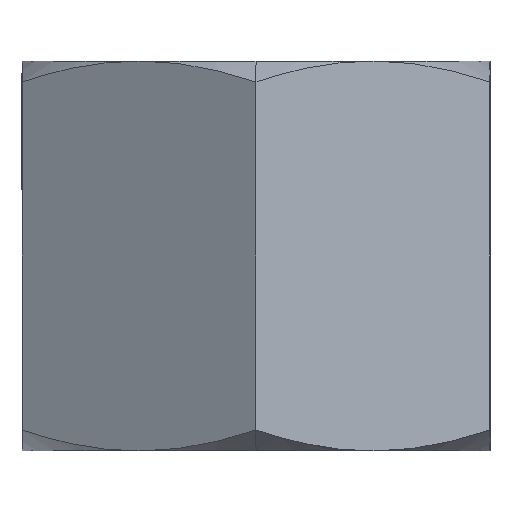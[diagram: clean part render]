
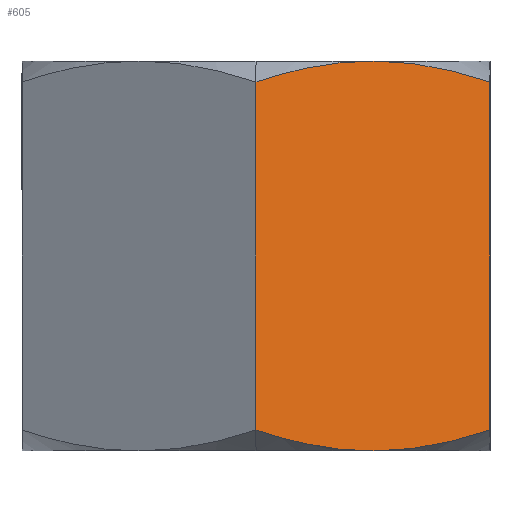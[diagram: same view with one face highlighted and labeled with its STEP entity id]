
A CAD part, left-side view. The second image highlights one B-rep face of the part: STEP entity #605.
In plain terms, the highlighted planar face has unit normal (-0.866, -0.5, 0).
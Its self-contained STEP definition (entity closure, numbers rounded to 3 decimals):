
#8 = B_SPLINE_CURVE_WITH_KNOTS ( 'NONE', 3,
 ( #809, #861, #186, #720, #864, #254 ),
 .UNSPECIFIED., .F., .F.,
 ( 4, 2, 4 ),
 ( 0.002, 0.003, 0.003 ),
 .UNSPECIFIED. ) ;
#36 = VECTOR ( 'NONE', #343, 1000. ) ;
#65 = DIRECTION ( 'NONE',  ( -0.866, -0.5, 0. ) ) ;
#74 = CARTESIAN_POINT ( 'NONE',  ( -3.464, 0., -2.5 ) ) ;
#105 = ORIENTED_EDGE ( 'NONE', *, *, #414, .T. ) ;
#122 = DIRECTION ( 'NONE',  ( 0.5, -0.866, 0. ) ) ;
#123 = CARTESIAN_POINT ( 'NONE',  ( -2.598, -1.5, -2.5 ) ) ;
#133 = CARTESIAN_POINT ( 'NONE',  ( -1.873, -2.755, -2.314 ) ) ;
#134 = LINE ( 'NONE', #74, #36 ) ;
#143 = CARTESIAN_POINT ( 'NONE',  ( -3.464, 0., 2.232 ) ) ;
#175 = CARTESIAN_POINT ( 'NONE',  ( -1.732, -3., -2.232 ) ) ;
#186 = CARTESIAN_POINT ( 'NONE',  ( -2.304, -2.009, 2.474 ) ) ;
#223 = EDGE_CURVE ( 'NONE', #264, #288, #661, .T. ) ;
#241 = VERTEX_POINT ( 'NONE', #175 ) ;
#251 = CARTESIAN_POINT ( 'NONE',  ( -2.304, -2.009, -2.474 ) ) ;
#254 = CARTESIAN_POINT ( 'NONE',  ( -1.732, -3., 2.232 ) ) ;
#257 = VERTEX_POINT ( 'NONE', #783 ) ;
#264 = VERTEX_POINT ( 'NONE', #621 ) ;
#288 = VERTEX_POINT ( 'NONE', #123 ) ;
#302 = CARTESIAN_POINT ( 'NONE',  ( -2.893, -0.989, -2.5 ) ) ;
#308 = CARTESIAN_POINT ( 'NONE',  ( -3.181, -0.491, -2.396 ) ) ;
#311 = CARTESIAN_POINT ( 'NONE',  ( -2.598, -1.5, 2.5 ) ) ;
#315 = FACE_OUTER_BOUND ( 'NONE', #468, .T. ) ;
#318 = B_SPLINE_CURVE_WITH_KNOTS ( 'NONE', 3,
 ( #793, #380, #507, #311 ),
 .UNSPECIFIED., .F., .F.,
 ( 4, 4 ),
 ( 0., 0.002 ),
 .UNSPECIFIED. ) ;
#319 = CARTESIAN_POINT ( 'NONE',  ( -1.732, -3., -2.232 ) ) ;
#332 = ORIENTED_EDGE ( 'NONE', *, *, #515, .F. ) ;
#343 = DIRECTION ( 'NONE',  ( 0., 0., 1. ) ) ;
#359 = ORIENTED_EDGE ( 'NONE', *, *, #223, .T. ) ;
#380 = CARTESIAN_POINT ( 'NONE',  ( -3.181, -0.491, 2.396 ) ) ;
#414 = EDGE_CURVE ( 'NONE', #288, #241, #421, .T. ) ;
#418 = ORIENTED_EDGE ( 'NONE', *, *, #801, .T. ) ;
#421 = B_SPLINE_CURVE_WITH_KNOTS ( 'NONE', 3,
 ( #583, #658, #251, #650, #133, #319 ),
 .UNSPECIFIED., .F., .F.,
 ( 4, 2, 4 ),
 ( 0.002, 0.003, 0.003 ),
 .UNSPECIFIED. ) ;
#468 = EDGE_LOOP ( 'NONE', ( #332, #803, #359, #105, #418, #472 ) ) ;
#472 = ORIENTED_EDGE ( 'NONE', *, *, #502, .F. ) ;
#495 = CARTESIAN_POINT ( 'NONE',  ( -1.732, -3., -2.5 ) ) ;
#498 = CARTESIAN_POINT ( 'NONE',  ( -3.464, 0., -2.232 ) ) ;
#501 = VERTEX_POINT ( 'NONE', #143 ) ;
#502 = EDGE_CURVE ( 'NONE', #257, #538, #8, .T. ) ;
#507 = CARTESIAN_POINT ( 'NONE',  ( -2.893, -0.989, 2.5 ) ) ;
#515 = EDGE_CURVE ( 'NONE', #501, #257, #318, .T. ) ;
#538 = VERTEX_POINT ( 'NONE', #577 ) ;
#551 = DIRECTION ( 'NONE',  ( 0., 0., 1. ) ) ;
#577 = CARTESIAN_POINT ( 'NONE',  ( -1.732, -3., 2.232 ) ) ;
#583 = CARTESIAN_POINT ( 'NONE',  ( -2.598, -1.5, -2.5 ) ) ;
#590 = LINE ( 'NONE', #495, #736 ) ;
#605 = ADVANCED_FACE ( 'NONE', ( #315 ), #718, .T. ) ;
#621 = CARTESIAN_POINT ( 'NONE',  ( -3.464, 0., -2.232 ) ) ;
#650 = CARTESIAN_POINT ( 'NONE',  ( -2.016, -2.508, -2.381 ) ) ;
#658 = CARTESIAN_POINT ( 'NONE',  ( -2.451, -1.755, -2.5 ) ) ;
#661 = B_SPLINE_CURVE_WITH_KNOTS ( 'NONE', 3,
 ( #498, #308, #302, #777 ),
 .UNSPECIFIED., .F., .F.,
 ( 4, 4 ),
 ( 0., 0.002 ),
 .UNSPECIFIED. ) ;
#718 = PLANE ( 'NONE',  #750 ) ;
#720 = CARTESIAN_POINT ( 'NONE',  ( -2.016, -2.508, 2.381 ) ) ;
#723 = CARTESIAN_POINT ( 'NONE',  ( -3.464, 0., -2.5 ) ) ;
#731 = EDGE_CURVE ( 'NONE', #264, #501, #134, .T. ) ;
#736 = VECTOR ( 'NONE', #551, 1000. ) ;
#750 = AXIS2_PLACEMENT_3D ( 'NONE', #723, #65, #122 ) ;
#777 = CARTESIAN_POINT ( 'NONE',  ( -2.598, -1.5, -2.5 ) ) ;
#783 = CARTESIAN_POINT ( 'NONE',  ( -2.598, -1.5, 2.5 ) ) ;
#793 = CARTESIAN_POINT ( 'NONE',  ( -3.464, 0., 2.232 ) ) ;
#801 = EDGE_CURVE ( 'NONE', #241, #538, #590, .T. ) ;
#803 = ORIENTED_EDGE ( 'NONE', *, *, #731, .F. ) ;
#809 = CARTESIAN_POINT ( 'NONE',  ( -2.598, -1.5, 2.5 ) ) ;
#861 = CARTESIAN_POINT ( 'NONE',  ( -2.451, -1.755, 2.5 ) ) ;
#864 = CARTESIAN_POINT ( 'NONE',  ( -1.873, -2.755, 2.314 ) ) ;
